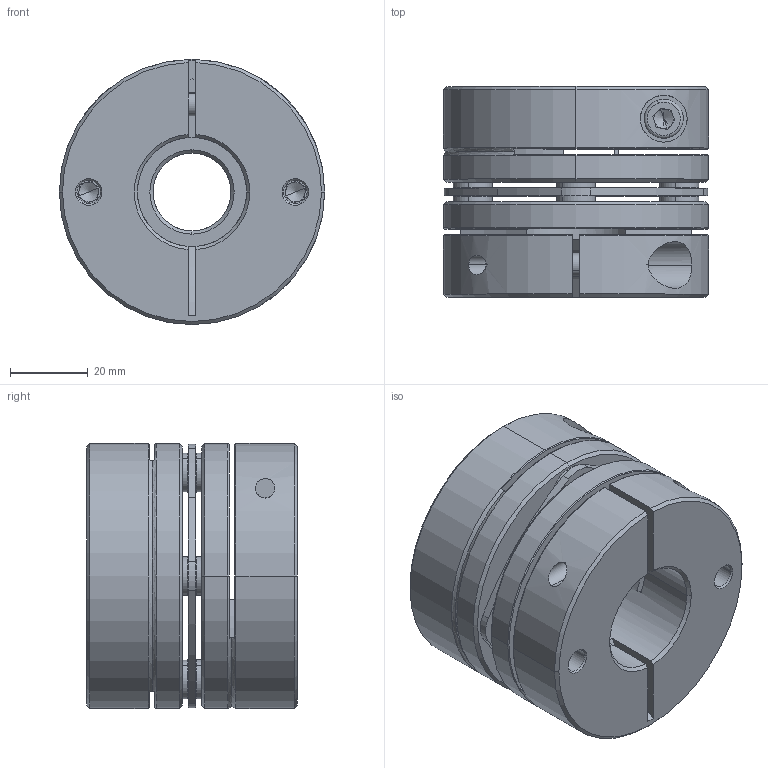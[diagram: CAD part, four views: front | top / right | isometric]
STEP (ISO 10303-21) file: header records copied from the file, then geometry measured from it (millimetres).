
FILE_DESCRIPTION (( 'STEP AP203' ), '1' );
FILE_NAME ('LD1-D68-20-28.STEP', '2021-10-26T07:58:14', ( '' ), ( '' ), 'SwSTEP 2.0', 'SolidWorks 2018', '' );
FILE_SCHEMA (( 'CONFIG_CONTROL_DESIGN' ));
Length unit declared in the file: millimetre
Products named in the file (2): 錨璃101^LD1-D68; LD1-D68-20-28
Assembly tree (1 placements, depth 2):
  LD1-D68-20-28
    錨璃101^LD1-D68
Bounding box: 68 x 54 x 68 mm (x, y, z)
Volume: 144140.9 mm3; surface area: 46207.2 mm2
Topology: 1 solids, 15 shells, 445 faces, 1059 edges, 650 vertices
Faces by surface type: cylinder 163, plane 138, cone 122, torus 22
Entity records: 13459 total; most frequent: CARTESIAN_POINT 2611, DIRECTION 2433, ORIENTED_EDGE 2086, EDGE_CURVE 1043, AXIS2_PLACEMENT_3D 988, VERTEX_POINT 650, CIRCLE 539, EDGE_LOOP 525
